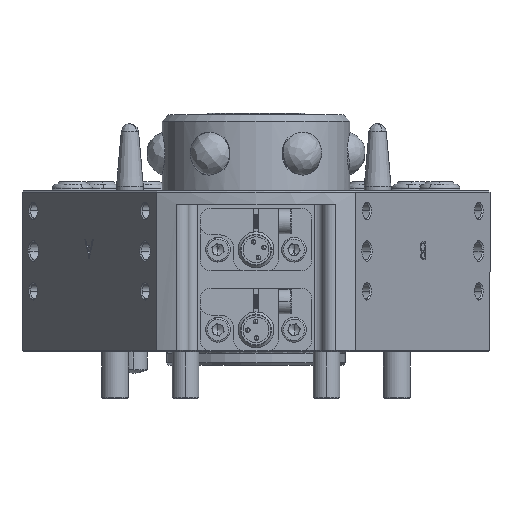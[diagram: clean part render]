
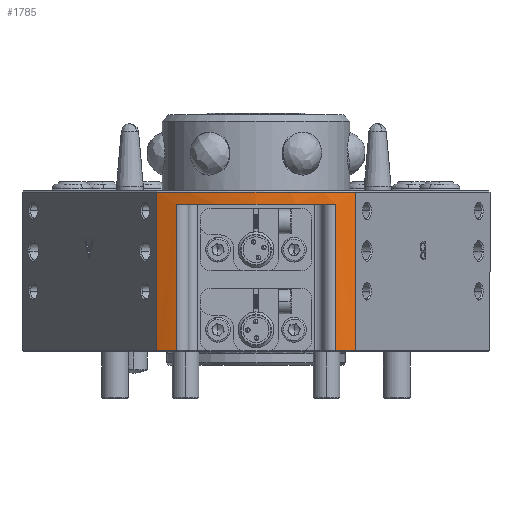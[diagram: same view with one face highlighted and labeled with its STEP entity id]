
A CAD part, front view. The second image highlights one B-rep face of the part: STEP entity #1785.
In plain terms, the highlighted cylindrical face has radius 52.5 mm (diameter 105 mm), a partial arc.
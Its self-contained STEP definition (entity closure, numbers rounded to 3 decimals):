
#1785 = ADVANCED_FACE ( 'NONE', ( #25052 ), #61909, .T. ) ;
#1972 = CARTESIAN_POINT ( 'NONE',  ( -22.312, -47.523, -35.7 ) ) ;
#2085 = LINE ( 'NONE', #15872, #19605 ) ;
#2422 = ORIENTED_EDGE ( 'NONE', *, *, #59975, .T. ) ;
#3248 = CARTESIAN_POINT ( 'NONE',  ( 0., 0., -26. ) ) ;
#3430 = AXIS2_PLACEMENT_3D ( 'NONE', #15042, #4006, #60442 ) ;
#4006 = DIRECTION ( 'NONE',  ( 0., 0., 1. ) ) ;
#8438 = ORIENTED_EDGE ( 'NONE', *, *, #24067, .T. ) ;
#9547 = CARTESIAN_POINT ( 'NONE',  ( 22.312, -47.523, -26. ) ) ;
#10910 = LINE ( 'NONE', #11075, #31926 ) ;
#11075 = CARTESIAN_POINT ( 'NONE',  ( -22.312, -47.523, -26. ) ) ;
#11080 = EDGE_CURVE ( 'NONE', #31389, #38114, #48018, .T. ) ;
#12160 = DIRECTION ( 'NONE',  ( 0., 0., 1. ) ) ;
#13662 = EDGE_CURVE ( 'NONE', #49745, #16638, #71264, .T. ) ;
#15042 = CARTESIAN_POINT ( 'NONE',  ( 0., 0., -3. ) ) ;
#15122 = CIRCLE ( 'NONE', #45613, 52.5 ) ;
#15192 = DIRECTION ( 'NONE',  ( 0., 0., -1. ) ) ;
#15872 = CARTESIAN_POINT ( 'NONE',  ( -17.673, -49.436, -26. ) ) ;
#16571 = CARTESIAN_POINT ( 'NONE',  ( 0., 0., -35.7 ) ) ;
#16638 = VERTEX_POINT ( 'NONE', #72090 ) ;
#16910 = CARTESIAN_POINT ( 'NONE',  ( 22.312, -47.523, -0.3 ) ) ;
#19605 = VECTOR ( 'NONE', #12160, 1000. ) ;
#20298 = EDGE_CURVE ( 'NONE', #38114, #46150, #10910, .T. ) ;
#21464 = CARTESIAN_POINT ( 'NONE',  ( 17.673, -49.436, -26. ) ) ;
#22172 = ORIENTED_EDGE ( 'NONE', *, *, #50532, .F. ) ;
#22666 = CARTESIAN_POINT ( 'NONE',  ( -22.312, -47.523, -0.3 ) ) ;
#24067 = EDGE_CURVE ( 'NONE', #56856, #33736, #2085, .T. ) ;
#25052 = FACE_OUTER_BOUND ( 'NONE', #50874, .T. ) ;
#25181 = VECTOR ( 'NONE', #37457, 1000. ) ;
#25702 = EDGE_CURVE ( 'NONE', #35213, #16638, #64217, .T. ) ;
#26323 = AXIS2_PLACEMENT_3D ( 'NONE', #3248, #42965, #59438 ) ;
#28981 = CIRCLE ( 'NONE', #3430, 52.5 ) ;
#30056 = ORIENTED_EDGE ( 'NONE', *, *, #25702, .F. ) ;
#31389 = VERTEX_POINT ( 'NONE', #16910 ) ;
#31926 = VECTOR ( 'NONE', #39513, 1000. ) ;
#32302 = CARTESIAN_POINT ( 'NONE',  ( -17.673, -49.436, -35.7 ) ) ;
#33736 = VERTEX_POINT ( 'NONE', #37289 ) ;
#35213 = VERTEX_POINT ( 'NONE', #60690 ) ;
#37289 = CARTESIAN_POINT ( 'NONE',  ( -17.673, -49.436, -3. ) ) ;
#37457 = DIRECTION ( 'NONE',  ( 0., 0., 1. ) ) ;
#38114 = VERTEX_POINT ( 'NONE', #22666 ) ;
#39513 = DIRECTION ( 'NONE',  ( 0., 0., -1. ) ) ;
#42965 = DIRECTION ( 'NONE',  ( 0., 0., 1. ) ) ;
#45451 = EDGE_CURVE ( 'NONE', #35213, #31389, #69205, .T. ) ;
#45613 = AXIS2_PLACEMENT_3D ( 'NONE', #16571, #55877, #72827 ) ;
#46150 = VERTEX_POINT ( 'NONE', #1972 ) ;
#48018 = CIRCLE ( 'NONE', #53094, 52.5 ) ;
#48826 = CARTESIAN_POINT ( 'NONE',  ( 0., 0., -35.7 ) ) ;
#49745 = VERTEX_POINT ( 'NONE', #65345 ) ;
#50532 = EDGE_CURVE ( 'NONE', #56856, #46150, #15122, .T. ) ;
#50874 = EDGE_LOOP ( 'NONE', ( #22172, #8438, #2422, #71848, #30056, #64160, #72666, #61760 ) ) ;
#53094 = AXIS2_PLACEMENT_3D ( 'NONE', #68695, #56654, #63037 ) ;
#55877 = DIRECTION ( 'NONE',  ( 0., 0., -1. ) ) ;
#56654 = DIRECTION ( 'NONE',  ( 0., 0., -1. ) ) ;
#56856 = VERTEX_POINT ( 'NONE', #32302 ) ;
#59438 = DIRECTION ( 'NONE',  ( 1., 0., 0. ) ) ;
#59975 = EDGE_CURVE ( 'NONE', #33736, #49745, #28981, .T. ) ;
#60017 = DIRECTION ( 'NONE',  ( 0., 0., -1. ) ) ;
#60127 = DIRECTION ( 'NONE',  ( 1., 0., 0. ) ) ;
#60328 = AXIS2_PLACEMENT_3D ( 'NONE', #48826, #15192, #60127 ) ;
#60442 = DIRECTION ( 'NONE',  ( 1., 0., 0. ) ) ;
#60690 = CARTESIAN_POINT ( 'NONE',  ( 22.312, -47.523, -35.7 ) ) ;
#61593 = VECTOR ( 'NONE', #60017, 1000. ) ;
#61760 = ORIENTED_EDGE ( 'NONE', *, *, #20298, .T. ) ;
#61909 = CYLINDRICAL_SURFACE ( 'NONE', #26323, 52.5 ) ;
#63037 = DIRECTION ( 'NONE',  ( 1., 0., 0. ) ) ;
#64160 = ORIENTED_EDGE ( 'NONE', *, *, #45451, .T. ) ;
#64217 = CIRCLE ( 'NONE', #60328, 52.5 ) ;
#65345 = CARTESIAN_POINT ( 'NONE',  ( 17.673, -49.436, -3. ) ) ;
#68695 = CARTESIAN_POINT ( 'NONE',  ( 0., 0., -0.3 ) ) ;
#69205 = LINE ( 'NONE', #9547, #25181 ) ;
#71264 = LINE ( 'NONE', #21464, #61593 ) ;
#71848 = ORIENTED_EDGE ( 'NONE', *, *, #13662, .T. ) ;
#72090 = CARTESIAN_POINT ( 'NONE',  ( 17.673, -49.436, -35.7 ) ) ;
#72666 = ORIENTED_EDGE ( 'NONE', *, *, #11080, .T. ) ;
#72827 = DIRECTION ( 'NONE',  ( 1., 0., 0. ) ) ;
